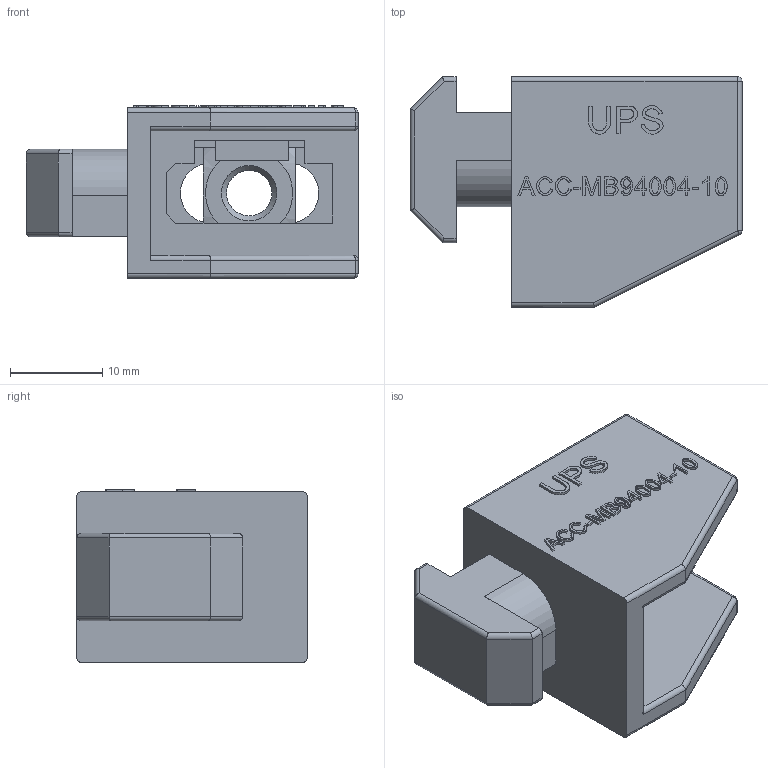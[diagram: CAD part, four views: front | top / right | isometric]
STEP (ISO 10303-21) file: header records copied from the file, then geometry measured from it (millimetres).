
FILE_DESCRIPTION((''),'2;1');
FILE_NAME('E:\catalogue and flyer\Profile catalogue 2015\Accessories ACC info\Accessories ACC step file 31Mar16\ACC-MB94004-10.stp','2016-04-07T14:55:54',('h029'),(''),'Autodesk Inventor 11','Autodesk Inventor 11','');
FILE_SCHEMA(('AUTOMOTIVE_DESIGN { 1 0 10303 214 1 1 1 1 }'));
Length unit declared in the file: millimetre
Products named in the file (3): Multi-Block_4545(Full); Multi-Block_4545; Washer
Assembly tree (2 placements, depth 2):
  Multi-Block_4545(Full)
    Multi-Block_4545
    Washer
Bounding box: 36 x 25 x 18.75 mm (x, y, z)
Volume: 6422.2 mm3; surface area: 5079.7 mm2
Topology: 2 solids, 2 shells, 330 faces, 859 edges, 557 vertices
Faces by surface type: plane 183, bspline 106, cylinder 33, sphere 6, torus 2
Entity records: 11396 total; most frequent: CARTESIAN_POINT 3939, ORIENTED_EDGE 1694, DIRECTION 1167, EDGE_CURVE 847, VECTOR 581, LINE 581, VERTEX_POINT 556, EDGE_LOOP 371
